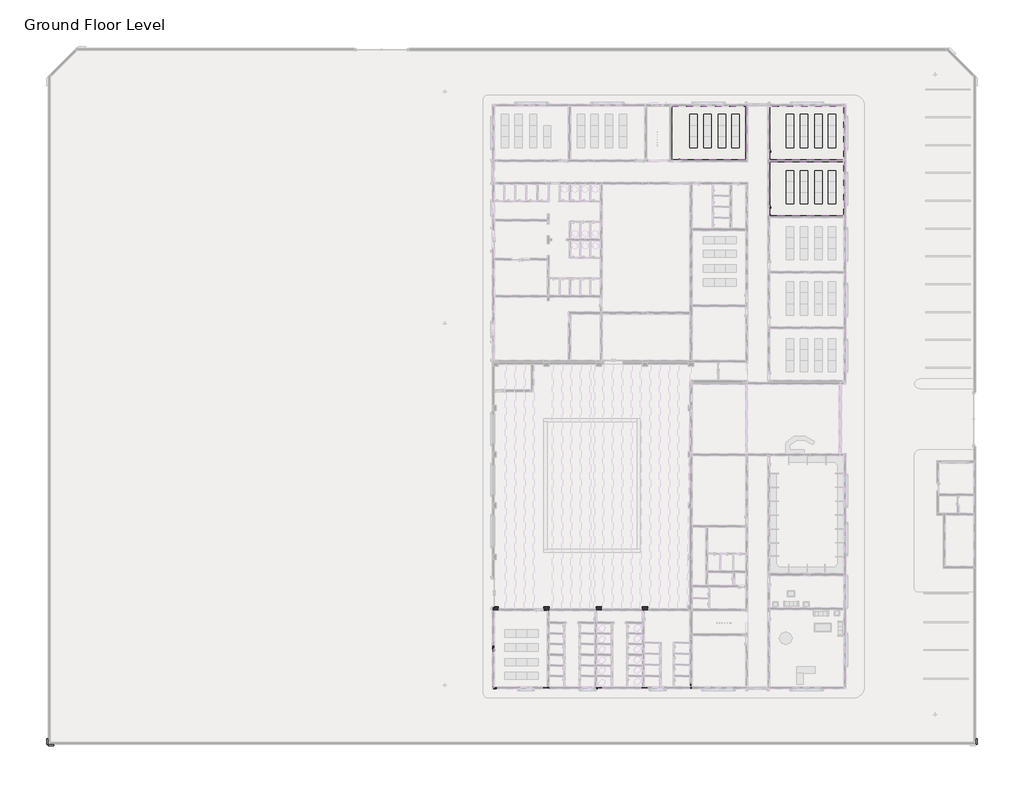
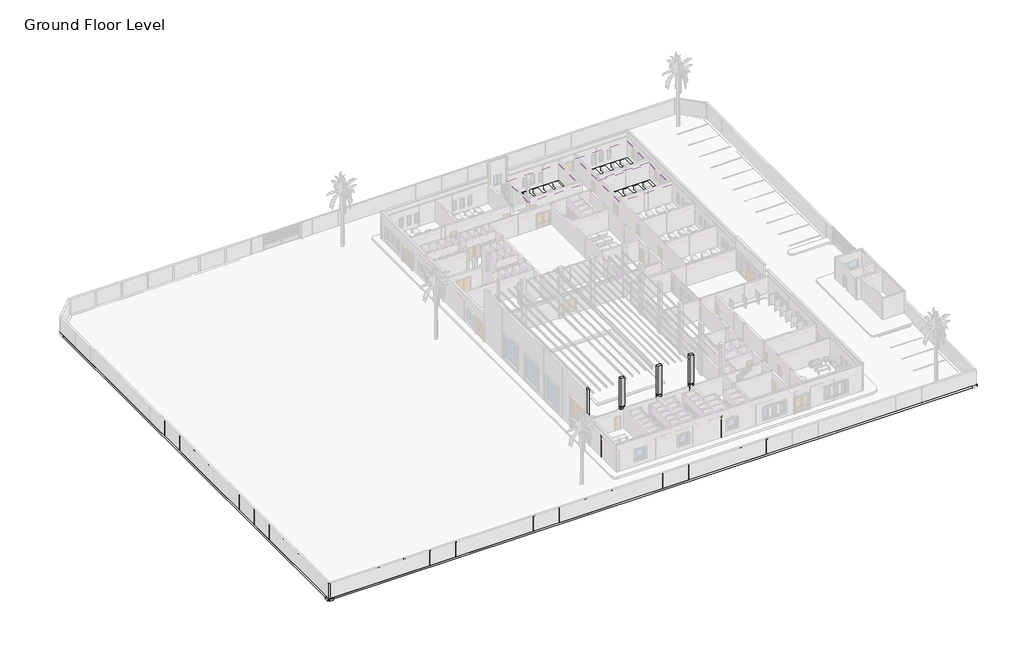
# One storey, part 13 of 23: 39 columns, 13 beams, 13 slabs, 3 coverings, 2 footings.
"""IFC4 building model written with IfcOpenShell, lengths in millimetres."""

from ifc_helpers import new_model, si_unit, frame, origin, place, context, project, spatial, polyline, outline, extrude, faceted_brep, transform, mapped, element, save
from components import concrete_rectangular_c_9a02abf1

model = new_model("IFC4")

# Units and contexts
model_context = context("Model", 3, world=origin())
ifc_project = project(units=[si_unit("LENGTHUNIT", "METRE", prefix="MILLI")], contexts=[model_context])

# Site, building, storey
site = spatial("IfcSite", under=ifc_project)
building = spatial("IfcBuilding", under=site)
storey = spatial("IfcBuildingStorey", under=building, Name="Ground Floor Level", Elevation=900.0)

# Beams
placement = place(None, origin())
element("IfcBeam", 1, ObjectType="Concrete - Rectangular Beam : GB1", at=placement, inside=storey, context=model_context, shape_type="Brep", body=[
    faceted_brep([(-16147.2327605, -41154.7846466, 500.0), (-15947.2327605, -41154.7846466, 500.0), (-15947.2327605, -41154.7846466, 600.0), (-15997.2327605, -41154.7846466, 600.0), (-16147.2327605, -41154.7846466, 600.0), (-15947.2327605, -32954.7846466, 500.0), (-15947.2327605, -32954.7846466, 600.0), (-16147.2327605, -32954.7846466, 500.0), (-16147.2327605, -32954.7846466, 600.0)], [[[0, 1, 2, 3, 4]], [[1, 5, 6, 2]], [[1, 0, 7, 5]], [[7, 0, 4, 8]], [[5, 7, 8, 6]], [[4, 3, 2, 6, 8]]]),
])
element("IfcBeam", 2, ObjectType="Concrete - Rectangular Beam : GB1", at=placement, inside=storey, context=model_context, shape_type="SweptSolid", body=[
    extrude(outline(polyline([(-10813.9007605, -41154.7846466), (-11013.9007605, -41154.7846466), (-11013.9007605, -32954.7846466), (-10813.9007605, -32954.7846466), (-10813.9007605, -41154.7846466)])), frame((0.0, 0.0, 500.0), z_axis=(0.0, 0.0, 1.0), x_axis=(1.0, 0.0, 0.0)), (0.0, 0.0, 1.0), 100.0),
])
element("IfcBeam", 3, ObjectType="Concrete - Rectangular Beam : GB1", at=placement, inside=storey, context=model_context, shape_type="SweptSolid", body=[
    extrude(outline(polyline([(-5680.5687605, -41154.7846466), (-5880.5687605, -41154.7846466), (-5880.5687605, -32954.7846466), (-5680.5687605, -32954.7846466), (-5680.5687605, -41154.7846466)])), frame((0.0, 0.0, 500.0), z_axis=(0.0, 0.0, 1.0), x_axis=(1.0, 0.0, 0.0)), (0.0, 0.0, 1.0), 100.0),
])
element("IfcBeam", 4, ObjectType="Concrete - Rectangular Beam : GB4", at=placement, inside=storey, context=model_context, shape_type="SweptSolid", body=[
    extrude(outline(polyline([(-22047.2327605, -36804.7846466), (-22047.2327605, -32954.7846466), (-21847.2327605, -32954.7846466), (-21847.2327605, -36804.7846466), (-22047.2327605, -36804.7846466)])), frame((0.0, 0.0, 300.0), z_axis=(0.0, 0.0, 1.0), x_axis=(1.0, 0.0, 0.0)), (0.0, 0.0, 1.0), 300.0),
])
element("IfcBeam", 5, ObjectType="Concrete - Rectangular Beam : GB4", at=placement, inside=storey, context=model_context, shape_type="SweptSolid", body=[
    extrude(outline(polyline([(-22047.2327605, -37304.7846466), (-21847.2327605, -37304.7846466), (-21847.2327605, -41154.7846466), (-22047.2327605, -41154.7846466), (-22047.2327605, -37304.7846466)])), frame((0.0, 0.0, 300.0), z_axis=(0.0, 0.0, 1.0), x_axis=(1.0, 0.0, 0.0)), (0.0, 0.0, 1.0), 300.0),
])
element("IfcBeam", 6, ObjectType="Concrete - Rectangular Beam : GB5", at=placement, inside=storey, context=model_context, shape_type="Brep", body=[
    faceted_brep([(-15997.2327605, -41354.7846466, 300.0), (-15947.2327605, -41354.7846466, 300.0), (-15947.2327605, -41354.7846466, 600.0), (-15997.2327605, -41354.7846466, 600.0), (-15947.2327605, -41154.7846466, 300.0), (-15997.2327605, -41154.7846466, 300.0), (-15997.2327605, -41154.7846466, 600.0), (-15947.2327605, -41154.7846466, 600.0), (-15947.2327605, -41154.7846466, 500.0)], [[[0, 1, 2, 3]], [[4, 1, 0, 5]], [[4, 5, 6, 7, 8]], [[1, 4, 8, 7, 2]], [[5, 0, 3, 6]], [[3, 2, 7, 6]]]),
    faceted_brep([(-16497.2327605, -41354.7846466, 300.0), (-16497.2327605, -41154.7846466, 300.0), (-16497.2327605, -41154.7846466, 600.0), (-16497.2327605, -41354.7846466, 600.0), (-21647.2327605, -41154.7846466, 300.0), (-21647.2327605, -41354.7846466, 300.0), (-21647.2327605, -41354.7846466, 600.0), (-21647.2327605, -41154.7846466, 600.0)], [[[0, 1, 2, 3]], [[4, 5, 6, 7]], [[5, 0, 3, 6]], [[1, 0, 5, 4]], [[1, 4, 7, 2]], [[3, 2, 7, 6]]]),
])
element("IfcBeam", 7, ObjectType="Concrete - Rectangular Beam : GB5", at=placement, inside=storey, context=model_context, shape_type="Brep", body=[
    faceted_brep([(-15947.2327605, -41354.7846466, 300.0), (-10797.2327605, -41354.7846466, 300.0), (-10797.2327605, -41354.7846466, 600.0), (-15947.2327605, -41354.7846466, 600.0), (-10797.2327605, -41154.7846466, 300.0), (-15947.2327605, -41154.7846466, 300.0), (-15947.2327605, -41154.7846466, 600.0), (-11013.9007605, -41154.7846466, 600.0), (-10813.9007605, -41154.7846466, 600.0), (-10797.2327605, -41154.7846466, 600.0)], [[[0, 1, 2, 3]], [[4, 1, 0, 5]], [[4, 5, 6, 7, 8, 9]], [[1, 4, 9, 2]], [[5, 0, 3, 6]], [[3, 2, 9, 8, 7, 6]]]),
])
element("IfcBeam", 8, ObjectType="Concrete - Rectangular Beam : GB5", at=placement, inside=storey, context=model_context, shape_type="SweptSolid", body=[
    extrude(outline(polyline([(-10297.2327605, -41354.7846466), (-10297.2327605, -41154.7846466), (-5897.2327605, -41154.7846466), (-5897.2327605, -41354.7846466), (-10297.2327605, -41354.7846466)])), frame((0.0, 0.0, 300.0), z_axis=(0.0, 0.0, 1.0), x_axis=(1.0, 0.0, 0.0)), (0.0, 0.0, 1.0), 300.0),
])
element("IfcBeam", 9, ObjectType="Concrete - Rectangular Beam : GB5", at=placement, inside=storey, context=model_context, shape_type="SweptSolid", body=[
    extrude(outline(polyline([(-5397.2327605, -41354.7846466), (-5397.2327605, -41154.7846466), (-747.2327605, -41154.7846466), (-747.2327605, -41354.7846466), (-5397.2327605, -41354.7846466)])), frame((0.0, 0.0, 300.0), z_axis=(0.0, 0.0, 1.0), x_axis=(1.0, 0.0, 0.0)), (0.0, 0.0, 1.0), 300.0),
])
element("IfcBeam", 10, ObjectType="Concrete - Rectangular Beam : GB5", at=placement, inside=storey, context=model_context, shape_type="SweptSolid", body=[
    extrude(outline(polyline([(-747.2327605, -36054.7846466), (-547.2327605, -36054.7846466), (-547.2327605, -40854.7846466), (-747.2327605, -40854.7846466), (-747.2327605, -36054.7846466)])), frame((0.0, 0.0, 300.0), z_axis=(0.0, 0.0, 1.0), x_axis=(1.0, 0.0, 0.0)), (0.0, 0.0, 1.0), 600.0),
])
element("IfcBeam", 11, ObjectType="Concrete - Rectangular Beam : GB5", at=placement, inside=storey, context=model_context, shape_type="SweptSolid", body=[
    extrude(outline(polyline([(-16547.2327605, -32754.7846466), (-16547.2327605, -32954.7846466), (-21447.2327605, -32954.7846466), (-21447.2327605, -32754.7846466), (-16547.2327605, -32754.7846466)])), frame((0.0, 0.0, 300.0), z_axis=(0.0, 0.0, 1.0), x_axis=(1.0, 0.0, 0.0)), (0.0, 0.0, 1.0), 600.0),
])
element("IfcBeam", 12, ObjectType="Concrete - Rectangular Beam : GB5", at=placement, inside=storey, context=model_context, shape_type="SweptSolid", body=[
    extrude(outline(polyline([(-10847.2327605, -32754.7846466), (-10847.2327605, -32954.7846466), (-15947.2327605, -32954.7846466), (-15947.2327605, -32754.7846466), (-10847.2327605, -32754.7846466)])), frame((0.0, 0.0, 300.0), z_axis=(0.0, 0.0, 1.0), x_axis=(1.0, 0.0, 0.0)), (0.0, 0.0, 1.0), 600.0),
])
element("IfcBeam", 13, ObjectType="Concrete - Rectangular Beam : GB5", at=placement, inside=storey, context=model_context, shape_type="SweptSolid", body=[
    extrude(outline(polyline([(-5897.2327605, -32754.7846466), (-5897.2327605, -32954.7846466), (-10247.2327605, -32954.7846466), (-10247.2327605, -32754.7846466), (-5897.2327605, -32754.7846466)])), frame((0.0, 0.0, 300.0), z_axis=(0.0, 0.0, 1.0), x_axis=(1.0, 0.0, 0.0)), (0.0, 0.0, 1.0), 300.0),
])

# Columns
concrete_rectangular_c_shape = concrete_rectangular_c_9a02abf1(model_context)
element("IfcColumn", 14, ObjectType="Concrete Rectangular : C", at=placement, inside=storey, context=model_context, shape_type="MappedRepresentation", body=[
    mapped(concrete_rectangular_c_shape, transform((-2283.9467112, -47254.7846466, 0.0), x_axis=(-1.0, 0.0, 0.0), y_axis=(0.0, -1.0, 0.0), z_axis=(0.0, 0.0, 1.0))),
])
element("IfcColumn", 15, ObjectType="Concrete Rectangular : C", at=placement, inside=storey, context=model_context, shape_type="MappedRepresentation", body=[
    mapped(concrete_rectangular_c_shape, transform((-6283.9467112, -47254.7846466, 0.0), x_axis=(-1.0, 0.0, 0.0), y_axis=(0.0, -1.0, 0.0), z_axis=(0.0, 0.0, 1.0))),
])
element("IfcColumn", 16, ObjectType="Concrete Rectangular : C", at=placement, inside=storey, context=model_context, shape_type="MappedRepresentation", body=[
    mapped(concrete_rectangular_c_shape, transform((-10283.9467112, -47254.7846466, 0.0), x_axis=(-1.0, 0.0, 0.0), y_axis=(0.0, -1.0, 0.0), z_axis=(0.0, 0.0, 1.0))),
])
element("IfcColumn", 17, ObjectType="Concrete Rectangular : C", at=placement, inside=storey, context=model_context, shape_type="MappedRepresentation", body=[
    mapped(concrete_rectangular_c_shape, transform((-14283.9467112, -47254.7846466, 0.0), x_axis=(-1.0, 0.0, 0.0), y_axis=(0.0, -1.0, 0.0), z_axis=(0.0, 0.0, 1.0))),
])
element("IfcColumn", 18, ObjectType="Concrete Rectangular : C", at=placement, inside=storey, context=model_context, shape_type="MappedRepresentation", body=[
    mapped(concrete_rectangular_c_shape, transform((-18283.9467112, -47254.7846466, 0.0), x_axis=(-1.0, 0.0, 0.0), y_axis=(0.0, -1.0, 0.0), z_axis=(0.0, 0.0, 1.0))),
])
element("IfcColumn", 19, ObjectType="Concrete Rectangular : C", at=placement, inside=storey, context=model_context, shape_type="MappedRepresentation", body=[
    mapped(concrete_rectangular_c_shape, transform((-22283.9467112, -47254.7846466, 0.0), x_axis=(-1.0, 0.0, 0.0), y_axis=(0.0, -1.0, 0.0), z_axis=(0.0, 0.0, 1.0))),
])
element("IfcColumn", 20, ObjectType="Concrete Rectangular : C", at=placement, inside=storey, context=model_context, shape_type="MappedRepresentation", body=[
    mapped(concrete_rectangular_c_shape, transform((-26283.9467112, -47254.7846466, 0.0), x_axis=(-1.0, 0.0, 0.0), y_axis=(0.0, -1.0, 0.0), z_axis=(0.0, 0.0, 1.0))),
])
element("IfcColumn", 21, ObjectType="Concrete Rectangular : C", at=placement, inside=storey, context=model_context, shape_type="MappedRepresentation", body=[
    mapped(concrete_rectangular_c_shape, transform((-30283.9467112, -47254.7846466, 0.0), x_axis=(-1.0, 0.0, 0.0), y_axis=(0.0, -1.0, 0.0), z_axis=(0.0, 0.0, 1.0))),
])
element("IfcColumn", 22, ObjectType="Concrete Rectangular : C", at=placement, inside=storey, context=model_context, shape_type="MappedRepresentation", body=[
    mapped(concrete_rectangular_c_shape, transform((-34283.9467112, -47254.7846466, 0.0), x_axis=(-1.0, 0.0, 0.0), y_axis=(0.0, -1.0, 0.0), z_axis=(0.0, 0.0, 1.0))),
])
element("IfcColumn", 23, ObjectType="Concrete Rectangular : C", at=placement, inside=storey, context=model_context, shape_type="MappedRepresentation", body=[
    mapped(concrete_rectangular_c_shape, transform((-38283.9467112, -47254.7846466, 0.0), x_axis=(-1.0, 0.0, 0.0), y_axis=(0.0, -1.0, 0.0), z_axis=(0.0, 0.0, 1.0))),
])
element("IfcColumn", 24, ObjectType="Concrete Rectangular : C", at=placement, inside=storey, context=model_context, shape_type="MappedRepresentation", body=[
    mapped(concrete_rectangular_c_shape, transform((-42283.9467112, -47254.7846466, 0.0), x_axis=(-1.0, 0.0, 0.0), y_axis=(0.0, -1.0, 0.0), z_axis=(0.0, 0.0, 1.0))),
])
element("IfcColumn", 25, ObjectType="Concrete Rectangular : C", at=placement, inside=storey, context=model_context, shape_type="MappedRepresentation", body=[
    mapped(concrete_rectangular_c_shape, transform((-46283.9467112, -47254.7846466, 0.0), x_axis=(-1.0, 0.0, 0.0), y_axis=(0.0, -1.0, 0.0), z_axis=(0.0, 0.0, 1.0))),
])
element("IfcColumn", 26, ObjectType="Concrete Rectangular : C", at=placement, inside=storey, context=model_context, shape_type="MappedRepresentation", body=[
    mapped(concrete_rectangular_c_shape, transform((-50283.9467112, -47254.7846466, 0.0), x_axis=(-1.0, 0.0, 0.0), y_axis=(0.0, -1.0, 0.0), z_axis=(0.0, 0.0, 1.0))),
])
element("IfcColumn", 27, ObjectType="Concrete Rectangular : C", at=placement, inside=storey, context=model_context, shape_type="MappedRepresentation", body=[
    mapped(concrete_rectangular_c_shape, transform((-54283.9467112, -47254.7846466, 0.0), x_axis=(-1.0, 0.0, 0.0), y_axis=(0.0, -1.0, 0.0), z_axis=(0.0, 0.0, 1.0))),
])
element("IfcColumn", 28, ObjectType="Concrete Rectangular : C", at=placement, inside=storey, context=model_context, shape_type="MappedRepresentation", body=[
    mapped(concrete_rectangular_c_shape, transform((-58283.9467112, -47254.7846466, 0.0), x_axis=(-1.0, 0.0, 0.0), y_axis=(0.0, -1.0, 0.0), z_axis=(0.0, 0.0, 1.0))),
])
element("IfcColumn", 29, ObjectType="Concrete Rectangular : C", at=placement, inside=storey, context=model_context, shape_type="MappedRepresentation", body=[
    mapped(concrete_rectangular_c_shape, transform((-62283.9467112, -47254.7846466, 0.0), x_axis=(-1.0, 0.0, 0.0), y_axis=(0.0, -1.0, 0.0), z_axis=(0.0, 0.0, 1.0))),
])
element("IfcColumn", 30, ObjectType="Concrete Rectangular : C", at=placement, inside=storey, context=model_context, shape_type="MappedRepresentation", body=[
    mapped(concrete_rectangular_c_shape, transform((-66283.9467112, -47254.7846466, 0.0), x_axis=(-1.0, 0.0, 0.0), y_axis=(0.0, -1.0, 0.0), z_axis=(0.0, 0.0, 1.0))),
])
element("IfcColumn", 31, ObjectType="Concrete Rectangular : C", at=placement, inside=storey, context=model_context, shape_type="MappedRepresentation", body=[
    mapped(concrete_rectangular_c_shape, transform((-69847.2327605, -47262.7139719, 0.0), x_axis=(-1.0, 0.0, 0.0), y_axis=(0.0, -1.0, 0.0), z_axis=(0.0, 0.0, 1.0))),
])
element("IfcColumn", 32, ObjectType="Concrete Rectangular : C", at=placement, inside=storey, context=model_context, shape_type="MappedRepresentation", body=[
    mapped(concrete_rectangular_c_shape, transform((-69847.2327605, -43271.6028608, 0.0), x_axis=(-1.0, 0.0, 0.0), y_axis=(0.0, -1.0, 0.0), z_axis=(0.0, 0.0, 1.0))),
])
element("IfcColumn", 33, ObjectType="Concrete Rectangular : C", at=placement, inside=storey, context=model_context, shape_type="MappedRepresentation", body=[
    mapped(concrete_rectangular_c_shape, transform((-69847.2327605, -39280.4917497, 0.0), x_axis=(-1.0, 0.0, 0.0), y_axis=(0.0, -1.0, 0.0), z_axis=(0.0, 0.0, 1.0))),
])
element("IfcColumn", 34, ObjectType="Concrete Rectangular : C", at=placement, inside=storey, context=model_context, shape_type="MappedRepresentation", body=[
    mapped(concrete_rectangular_c_shape, transform((-69847.2327605, -35289.3806386, 0.0), x_axis=(-1.0, 0.0, 0.0), y_axis=(0.0, -1.0, 0.0), z_axis=(0.0, 0.0, 1.0))),
])
element("IfcColumn", 35, ObjectType="Concrete Rectangular : C", at=placement, inside=storey, context=model_context, shape_type="MappedRepresentation", body=[
    mapped(concrete_rectangular_c_shape, transform((-69847.2327605, -31298.2695275, 0.0), x_axis=(-1.0, 0.0, 0.0), y_axis=(0.0, -1.0, 0.0), z_axis=(0.0, 0.0, 1.0))),
])
element("IfcColumn", 36, ObjectType="Concrete Rectangular : C", at=placement, inside=storey, context=model_context, shape_type="MappedRepresentation", body=[
    mapped(concrete_rectangular_c_shape, transform((-69847.2327605, -27307.1584163, 0.0), x_axis=(-1.0, 0.0, 0.0), y_axis=(0.0, -1.0, 0.0), z_axis=(0.0, 0.0, 1.0))),
])
element("IfcColumn", 37, ObjectType="Concrete Rectangular : C", at=placement, inside=storey, context=model_context, shape_type="MappedRepresentation", body=[
    mapped(concrete_rectangular_c_shape, transform((-69847.2327605, -23316.0473052, 0.0), x_axis=(-1.0, 0.0, 0.0), y_axis=(0.0, -1.0, 0.0), z_axis=(0.0, 0.0, 1.0))),
])
element("IfcColumn", 38, ObjectType="Concrete Rectangular : C", at=placement, inside=storey, context=model_context, shape_type="MappedRepresentation", body=[
    mapped(concrete_rectangular_c_shape, transform((-69847.2327605, -19324.9361941, 0.0), x_axis=(-1.0, 0.0, 0.0), y_axis=(0.0, -1.0, 0.0), z_axis=(0.0, 0.0, 1.0))),
])
element("IfcColumn", 39, ObjectType="Concrete Rectangular : C", at=placement, inside=storey, context=model_context, shape_type="MappedRepresentation", body=[
    mapped(concrete_rectangular_c_shape, transform((-69847.2327605, -15333.825083, 0.0), x_axis=(-1.0, 0.0, 0.0), y_axis=(0.0, -1.0, 0.0), z_axis=(0.0, 0.0, 1.0))),
])
element("IfcColumn", 40, ObjectType="Concrete Rectangular : C", at=placement, inside=storey, context=model_context, shape_type="MappedRepresentation", body=[
    mapped(concrete_rectangular_c_shape, transform((-69847.2327605, -11342.7139719, 0.0), x_axis=(-1.0, 0.0, 0.0), y_axis=(0.0, -1.0, 0.0), z_axis=(0.0, 0.0, 1.0))),
])
element("IfcColumn", 41, ObjectType="Concrete Rectangular : C", at=placement, inside=storey, context=model_context, shape_type="MappedRepresentation", body=[
    mapped(concrete_rectangular_c_shape, transform((-69847.2327605, -7351.6028608, 0.0), x_axis=(-1.0, 0.0, 0.0), y_axis=(0.0, -1.0, 0.0), z_axis=(0.0, 0.0, 1.0))),
])
element("IfcColumn", 42, ObjectType="Concrete Rectangular : C", at=placement, inside=storey, context=model_context, shape_type="MappedRepresentation", body=[
    mapped(concrete_rectangular_c_shape, transform((-69847.2327605, -3360.4917497, 0.0), x_axis=(-1.0, 0.0, 0.0), y_axis=(0.0, -1.0, 0.0), z_axis=(0.0, 0.0, 1.0))),
])
element("IfcColumn", 43, ObjectType="Concrete Rectangular : C1", at=placement, inside=storey, context=model_context, shape_type="Brep", body=[
    faceted_brep([(-22047.2327605, -41154.7846466, -300.0), (-21647.2327605, -41154.7846466, -300.0), (-21647.2327605, -41354.7846466, -300.0), (-22047.2327605, -41354.7846466, -300.0), (-21647.2327605, -41154.7846466, 600.0), (-21847.2327605, -41154.7846466, 600.0), (-22047.2327605, -41154.7846466, 600.0), (-22047.2327605, -41354.7846466, 600.0), (-21647.2327605, -41354.7846466, 600.0), (-22047.2327605, -41154.7846466, 300.0), (-21647.2327605, -41154.7846466, 300.0), (-21647.2327605, -41354.7846466, 300.0)], [[[0, 1, 2, 3]], [[4, 5, 6, 7, 8]], [[1, 0, 9, 6, 5, 4, 10]], [[3, 2, 11, 8, 7]], [[0, 3, 7, 6, 9]], [[2, 1, 10, 4, 8, 11]]]),
    faceted_brep([(-22047.2327605, -41154.7846466, 4400.0), (-21647.2327605, -41154.7846466, 4400.0), (-21647.2327605, -41154.7846466, 1000.0), (-21647.2327605, -41154.7846466, 900.0), (-21847.2327605, -41154.7846466, 900.0), (-22047.2327605, -41154.7846466, 900.0), (-21647.2327605, -41354.7846466, 4400.0), (-21647.2327605, -41354.7846466, 900.0), (-22047.2327605, -41354.7846466, 4400.0), (-22047.2327605, -41354.7846466, 900.0)], [[[0, 1, 2, 3, 4, 5]], [[1, 6, 7, 3, 2]], [[6, 8, 9, 7]], [[8, 0, 5, 9]], [[1, 0, 8, 6]], [[5, 4, 3, 7, 9]]]),
])
element("IfcColumn", 44, ObjectType="Concrete Rectangular : C2", at=placement, inside=storey, context=model_context, shape_type="Brep", body=[
    faceted_brep([(-21847.2327605, -36804.7846466, -300.0), (-21847.2327605, -37304.7846466, -300.0), (-22047.2327605, -37304.7846466, -300.0), (-22047.2327605, -36804.7846466, -300.0), (-21847.2327605, -37304.7846466, 600.0), (-21847.2327605, -36804.7846466, 600.0), (-22047.2327605, -36804.7846466, 600.0), (-22047.2327605, -37304.7846466, 600.0), (-21847.2327605, -36804.7846466, 300.0), (-21847.2327605, -37304.7846466, 300.0), (-22047.2327605, -37304.7846466, 300.0), (-22047.2327605, -36804.7846466, 300.0)], [[[0, 1, 2, 3]], [[4, 5, 6, 7]], [[1, 0, 8, 5, 4, 9]], [[2, 1, 9, 4, 7, 10]], [[3, 2, 10, 7, 6, 11]], [[0, 3, 11, 6, 5, 8]]]),
    faceted_brep([(-21847.2327605, -36804.7846466, 4400.0), (-21847.2327605, -37304.7846466, 4400.0), (-21847.2327605, -37304.7846466, 1000.0), (-21847.2327605, -37304.7846466, 900.0), (-21847.2327605, -36804.7846466, 900.0), (-21847.2327605, -36804.7846466, 1000.0), (-22047.2327605, -37304.7846466, 4400.0), (-22047.2327605, -37304.7846466, 900.0), (-22047.2327605, -36804.7846466, 4400.0), (-22047.2327605, -36804.7846466, 900.0)], [[[0, 1, 2, 3, 4, 5]], [[1, 6, 7, 3, 2]], [[6, 8, 9, 7]], [[8, 0, 5, 4, 9]], [[1, 0, 8, 6]], [[4, 3, 7, 9]]]),
])
element("IfcColumn", 45, ObjectType="Concrete Rectangular : C2", at=placement, inside=storey, context=model_context, shape_type="Brep", body=[
    faceted_brep([(-16497.2327605, -41154.7846466, -300.0), (-15997.2327605, -41154.7846466, -300.0), (-15997.2327605, -41354.7846466, -300.0), (-16497.2327605, -41354.7846466, -300.0), (-15997.2327605, -41154.7846466, 600.0), (-16147.2327605, -41154.7846466, 600.0), (-16497.2327605, -41154.7846466, 600.0), (-16497.2327605, -41354.7846466, 600.0), (-15997.2327605, -41354.7846466, 600.0), (-16497.2327605, -41154.7846466, 300.0), (-15997.2327605, -41154.7846466, 300.0), (-15997.2327605, -41354.7846466, 300.0), (-16497.2327605, -41354.7846466, 300.0)], [[[0, 1, 2, 3]], [[4, 5, 6, 7, 8]], [[1, 0, 9, 6, 5, 4, 10]], [[2, 1, 10, 4, 8, 11]], [[3, 2, 11, 8, 7, 12]], [[0, 3, 12, 7, 6, 9]]]),
    faceted_brep([(-16497.2327605, -41154.7846466, 4400.0), (-15997.2327605, -41154.7846466, 4400.0), (-15997.2327605, -41154.7846466, 900.0), (-16147.2327605, -41154.7846466, 900.0), (-16497.2327605, -41154.7846466, 900.0), (-16497.2327605, -41154.7846466, 1000.0), (-15997.2327605, -41354.7846466, 4400.0), (-15997.2327605, -41354.7846466, 900.0), (-16497.2327605, -41354.7846466, 4400.0), (-16497.2327605, -41354.7846466, 900.0)], [[[0, 1, 2, 3, 4, 5]], [[1, 6, 7, 2]], [[6, 8, 9, 7]], [[8, 0, 5, 4, 9]], [[1, 0, 8, 6]], [[4, 3, 2, 7, 9]]]),
])
element("IfcColumn", 46, ObjectType="Concrete Rectangular : C2", at=placement, inside=storey, context=model_context, shape_type="Brep", body=[
    faceted_brep([(-10797.2327605, -41154.7846466, -300.0), (-10297.2327605, -41154.7846466, -300.0), (-10297.2327605, -41354.7846466, -300.0), (-10797.2327605, -41354.7846466, -300.0), (-10297.2327605, -41154.7846466, 600.0), (-10797.2327605, -41154.7846466, 600.0), (-10797.2327605, -41354.7846466, 600.0), (-10297.2327605, -41354.7846466, 600.0), (-10797.2327605, -41154.7846466, 300.0), (-10297.2327605, -41154.7846466, 300.0), (-10297.2327605, -41354.7846466, 300.0), (-10797.2327605, -41354.7846466, 300.0)], [[[0, 1, 2, 3]], [[4, 5, 6, 7]], [[1, 0, 8, 5, 4, 9]], [[2, 1, 9, 4, 7, 10]], [[3, 2, 10, 7, 6, 11]], [[0, 3, 11, 6, 5, 8]]]),
    faceted_brep([(-10797.2327605, -41154.7846466, 4400.0), (-10297.2327605, -41154.7846466, 4400.0), (-10297.2327605, -41154.7846466, 1000.0), (-10297.2327605, -41154.7846466, 900.0), (-10797.2327605, -41154.7846466, 900.0), (-10797.2327605, -41154.7846466, 1000.0), (-10297.2327605, -41354.7846466, 4400.0), (-10297.2327605, -41354.7846466, 900.0), (-10797.2327605, -41354.7846466, 4400.0), (-10797.2327605, -41354.7846466, 900.0)], [[[0, 1, 2, 3, 4, 5]], [[1, 6, 7, 3, 2]], [[6, 8, 9, 7]], [[8, 0, 5, 4, 9]], [[1, 0, 8, 6]], [[4, 3, 7, 9]]]),
])
element("IfcColumn", 47, ObjectType="Concrete Rectangular : C2", at=placement, inside=storey, context=model_context, shape_type="Brep", body=[
    faceted_brep([(-5897.2327605, -41154.7846466, -300.0), (-5397.2327605, -41154.7846466, -300.0), (-5397.2327605, -41354.7846466, -300.0), (-5897.2327605, -41354.7846466, -300.0), (-5397.2327605, -41154.7846466, 600.0), (-5680.5687605, -41154.7846466, 600.0), (-5880.5687605, -41154.7846466, 600.0), (-5897.2327605, -41154.7846466, 600.0), (-5897.2327605, -41354.7846466, 600.0), (-5397.2327605, -41354.7846466, 600.0), (-5897.2327605, -41154.7846466, 300.0), (-5397.2327605, -41154.7846466, 300.0), (-5397.2327605, -41354.7846466, 300.0), (-5897.2327605, -41354.7846466, 300.0)], [[[0, 1, 2, 3]], [[4, 5, 6, 7, 8, 9]], [[1, 0, 10, 7, 6, 5, 4, 11]], [[2, 1, 11, 4, 9, 12]], [[3, 2, 12, 9, 8, 13]], [[0, 3, 13, 8, 7, 10]]]),
    faceted_brep([(-5897.2327605, -41154.7846466, 4400.0), (-5397.2327605, -41154.7846466, 4400.0), (-5397.2327605, -41154.7846466, 1000.0), (-5397.2327605, -41154.7846466, 900.0), (-5897.2327605, -41154.7846466, 900.0), (-5897.2327605, -41154.7846466, 1000.0), (-5397.2327605, -41354.7846466, 4400.0), (-5397.2327605, -41354.7846466, 900.0), (-5897.2327605, -41354.7846466, 4400.0), (-5897.2327605, -41354.7846466, 900.0)], [[[0, 1, 2, 3, 4, 5]], [[1, 6, 7, 3, 2]], [[6, 8, 9, 7]], [[8, 0, 5, 4, 9]], [[1, 0, 8, 6]], [[4, 3, 7, 9]]]),
])
element("IfcColumn", 48, ObjectType="Concrete Rectangular : C2", at=placement, inside=storey, context=model_context, shape_type="Brep", body=[
    faceted_brep([(-547.2327605, -40854.7846466, -300.0), (-547.2327605, -41354.7846466, -300.0), (-747.2327605, -41354.7846466, -300.0), (-747.2327605, -40854.7846466, -300.0), (-547.2327605, -40854.7846466, 4400.0), (-547.2327605, -41144.7846466, 4400.0), (-547.2327605, -41354.7846466, 4400.0), (-547.2327605, -41354.7846466, 900.0), (-547.2327605, -40854.7846466, 900.0), (-547.2327605, -40854.7846466, 1000.0), (-747.2327605, -41354.7846466, 4400.0), (-747.2327605, -41354.7846466, 900.0), (-747.2327605, -41144.7846466, 4400.0), (-747.2327605, -40854.7846466, 4400.0), (-747.2327605, -40854.7846466, 1000.0), (-747.2327605, -40854.7846466, 900.0)], [[[0, 1, 2, 3]], [[4, 5, 6, 7, 1, 0, 8, 9]], [[6, 10, 11, 2, 1, 7]], [[10, 12, 13, 14, 15, 3, 2, 11]], [[13, 4, 9, 8, 0, 3, 15, 14]], [[4, 13, 12, 10, 6, 5]]]),
])
element("IfcColumn", 49, ObjectType="Concrete Rectangular : C4", at=placement, inside=storey, context=model_context, shape_type="Brep", body=[
    faceted_brep([(-5897.2327605, -32554.7846466, -300.0), (-5297.2327605, -32554.7846466, -300.0), (-5297.2327605, -32954.7846466, -300.0), (-5897.2327605, -32954.7846466, -300.0), (-5897.2327605, -32554.7846466, 9200.0), (-5297.2327605, -32554.7846466, 9200.0), (-5297.2327605, -32744.7846466, 9200.0), (-5297.2327605, -32954.7846466, 9200.0), (-5297.2327605, -32954.7846466, 4550.0), (-5297.2327605, -32754.7846466, 4550.0), (-5297.2327605, -32754.7846466, 4400.0), (-5297.2327605, -32954.7846466, 4400.0), (-5297.2327605, -32954.7846466, 4100.0), (-5297.2327605, -32954.7846466, 1000.0), (-5297.2327605, -32954.7846466, 900.0), (-5897.2327605, -32954.7846466, 9200.0), (-5897.2327605, -32954.7846466, 4550.0), (-5897.2327605, -32954.7846466, 900.0), (-5897.2327605, -32954.7846466, 1000.0), (-5897.2327605, -32954.7846466, 4100.0), (-5897.2327605, -32954.7846466, 4400.0), (-5897.2327605, -32754.7846466, 4400.0), (-5897.2327605, -32754.7846466, 4550.0), (-5897.2327605, -32744.7846466, 9200.0)], [[[0, 1, 2, 3]], [[1, 0, 4, 5]], [[2, 1, 5, 6, 7, 8, 9, 10, 11, 12, 13, 14]], [[7, 15, 16, 8]], [[0, 3, 17, 18, 19, 20, 21, 22, 16, 15, 23, 4]], [[5, 4, 23, 15, 7, 6]], [[10, 21, 20, 11]], [[22, 9, 8, 16]], [[21, 10, 9, 22]], [[3, 2, 14, 13, 12, 11, 20, 19, 18, 17]]]),
])
element("IfcColumn", 50, ObjectType="Concrete Rectangular : C4", at=placement, inside=storey, context=model_context, shape_type="Brep", body=[
    faceted_brep([(-10847.2327605, -32554.7846466, -300.0), (-10247.2327605, -32554.7846466, -300.0), (-10247.2327605, -32954.7846466, -300.0), (-10847.2327605, -32954.7846466, -300.0), (-10847.2327605, -32554.7846466, 9200.0), (-10247.2327605, -32554.7846466, 9200.0), (-10247.2327605, -32744.7846466, 9200.0), (-10247.2327605, -32954.7846466, 9200.0), (-10247.2327605, -32954.7846466, 4550.0), (-10247.2327605, -32754.7846466, 4550.0), (-10247.2327605, -32754.7846466, 4400.0), (-10247.2327605, -32954.7846466, 4400.0), (-10247.2327605, -32954.7846466, 4100.0), (-10247.2327605, -32954.7846466, 1000.0), (-10247.2327605, -32954.7846466, 900.0), (-10847.2327605, -32954.7846466, 9200.0), (-10847.2327605, -32954.7846466, 4550.0), (-10847.2327605, -32954.7846466, 900.0), (-10847.2327605, -32954.7846466, 1000.0), (-10847.2327605, -32954.7846466, 4100.0), (-10847.2327605, -32954.7846466, 4400.0), (-10847.2327605, -32754.7846466, 4400.0), (-10847.2327605, -32754.7846466, 4550.0), (-10847.2327605, -32744.7846466, 9200.0)], [[[0, 1, 2, 3]], [[1, 0, 4, 5]], [[2, 1, 5, 6, 7, 8, 9, 10, 11, 12, 13, 14]], [[7, 15, 16, 8]], [[0, 3, 17, 18, 19, 20, 21, 22, 16, 15, 23, 4]], [[5, 4, 23, 15, 7, 6]], [[10, 21, 20, 11]], [[22, 9, 8, 16]], [[21, 10, 9, 22]], [[3, 2, 14, 13, 12, 11, 20, 19, 18, 17]]]),
])
element("IfcColumn", 51, ObjectType="Concrete Rectangular : C4", at=placement, inside=storey, context=model_context, shape_type="Brep", body=[
    faceted_brep([(-16547.2327605, -32554.7846466, -300.0), (-15947.2327605, -32554.7846466, -300.0), (-15947.2327605, -32954.7846466, -300.0), (-16547.2327605, -32954.7846466, -300.0), (-16547.2327605, -32554.7846466, 9200.0), (-15947.2327605, -32554.7846466, 9200.0), (-15947.2327605, -32744.7846466, 9200.0), (-15947.2327605, -32954.7846466, 9200.0), (-15947.2327605, -32954.7846466, 4550.0), (-15947.2327605, -32754.7846466, 4550.0), (-15947.2327605, -32754.7846466, 4400.0), (-15947.2327605, -32954.7846466, 4400.0), (-15947.2327605, -32954.7846466, 4100.0), (-15947.2327605, -32954.7846466, 1000.0), (-15947.2327605, -32954.7846466, 900.0), (-16547.2327605, -32954.7846466, 9200.0), (-16547.2327605, -32954.7846466, 4550.0), (-16547.2327605, -32954.7846466, 900.0), (-16547.2327605, -32954.7846466, 1000.0), (-16547.2327605, -32954.7846466, 4100.0), (-16547.2327605, -32954.7846466, 4400.0), (-16547.2327605, -32754.7846466, 4400.0), (-16547.2327605, -32754.7846466, 4550.0), (-16547.2327605, -32744.7846466, 9200.0)], [[[0, 1, 2, 3]], [[1, 0, 4, 5]], [[2, 1, 5, 6, 7, 8, 9, 10, 11, 12, 13, 14]], [[7, 15, 16, 8]], [[0, 3, 17, 18, 19, 20, 21, 22, 16, 15, 23, 4]], [[5, 4, 23, 15, 7, 6]], [[10, 21, 20, 11]], [[22, 9, 8, 16]], [[21, 10, 9, 22]], [[3, 2, 14, 13, 12, 11, 20, 19, 18, 17]]]),
])
element("IfcColumn", 52, ObjectType="Concrete Rectangular : C4", at=placement, inside=storey, context=model_context, shape_type="Brep", body=[
    faceted_brep([(-22047.2327605, -32554.7846466, -300.0), (-21447.2327605, -32554.7846466, -300.0), (-21447.2327605, -32954.7846466, -300.0), (-22047.2327605, -32954.7846466, -300.0), (-21447.2327605, -32554.7846466, 600.0), (-21847.2327605, -32554.7846466, 600.0), (-22047.2327605, -32554.7846466, 600.0), (-22047.2327605, -32954.7846466, 600.0), (-21847.2327605, -32954.7846466, 600.0), (-21447.2327605, -32954.7846466, 600.0), (-22047.2327605, -32554.7846466, 300.0), (-22047.2327605, -32954.7846466, 300.0)], [[[0, 1, 2, 3]], [[4, 5, 6, 7, 8, 9]], [[1, 0, 10, 6, 5, 4]], [[2, 1, 4, 9]], [[3, 2, 9, 8, 7, 11]], [[0, 3, 11, 7, 6, 10]]]),
    faceted_brep([(-22047.2327605, -32554.7846466, 9200.0), (-21837.2327605, -32554.7846466, 9200.0), (-21447.2327605, -32554.7846466, 9200.0), (-21447.2327605, -32554.7846466, 900.0), (-22047.2327605, -32554.7846466, 900.0), (-22047.2327605, -32554.7846466, 5919.0), (-21447.2327605, -32744.7846466, 9200.0), (-21447.2327605, -32954.7846466, 9200.0), (-21447.2327605, -32954.7846466, 4550.0), (-21447.2327605, -32754.7846466, 4550.0), (-21447.2327605, -32754.7846466, 4400.0), (-21447.2327605, -32954.7846466, 4400.0), (-21447.2327605, -32954.7846466, 4100.0), (-21447.2327605, -32954.7846466, 1000.0), (-21447.2327605, -32954.7846466, 900.0), (-21447.2327605, -32754.7846466, 900.0), (-21837.2327605, -32954.7846466, 9200.0), (-22047.2327605, -32954.7846466, 9200.0), (-22047.2327605, -32954.7846466, 4550.0), (-22047.2327605, -32573.7846466, 900.0), (-22047.2327605, -32954.7846466, 900.0), (-22047.2327605, -32954.7846466, 4100.0), (-22047.2327605, -32954.7846466, 4400.0), (-22047.2327605, -32754.7846466, 4400.0), (-22047.2327605, -32754.7846466, 4550.0), (-21837.2327605, -32954.7846466, 900.0)], [[[0, 1, 2, 3, 4, 5]], [[2, 6, 7, 8, 9, 10, 11, 12, 13, 14, 15, 3]], [[7, 16, 17, 18, 8]], [[17, 0, 5, 4, 19, 20, 21, 22, 23, 24, 18]], [[2, 1, 0, 17, 16, 7, 6]], [[4, 3, 15, 14, 25, 20, 19]], [[10, 23, 22, 11]], [[24, 9, 8, 18]], [[23, 10, 9, 24]], [[20, 25, 14, 13, 12, 11, 22, 21]]]),
])

# Coverings
element("IfcCovering", 53, ObjectType="600 x 600mm Grid", at=placement, inside=storey, context=model_context, shape_type="SweptSolid", body=[
    extrude(outline(polyline([(5242.7672395, 21435.2153534), (5242.7672395, 15655.2153534), (-2637.2327605, 15655.2153534), (-2737.2327605, 15655.2153534), (-2737.2327605, 21435.2153534), (-2637.2327605, 21435.2153534), (5242.7672395, 21435.2153534)])), frame((0.0, 0.0, 3650.0), z_axis=(0.0, 0.0, 1.0), x_axis=(1.0, 0.0, 0.0)), (0.0, 0.0, 1.0), 52.0),
])
element("IfcCovering", 54, ObjectType="600 x 600mm Grid", at=placement, inside=storey, context=model_context, shape_type="SweptSolid", body=[
    extrude(outline(polyline([(7862.7672395, 15655.2153534), (7862.7672395, 21435.2153534), (15842.7672395, 21435.2153534), (15842.7672395, 15655.2153534), (7862.7672395, 15655.2153534)])), frame((0.0, 0.0, 3650.0), z_axis=(0.0, 0.0, 1.0), x_axis=(1.0, 0.0, 0.0)), (0.0, 0.0, 1.0), 52.0),
])
element("IfcCovering", 55, ObjectType="600 x 600mm Grid", at=placement, inside=storey, context=model_context, shape_type="SweptSolid", body=[
    extrude(outline(polyline([(7862.7672395, 9655.2153534), (7862.7672395, 15435.2153534), (15842.7672395, 15435.2153534), (15842.7672395, 9655.2153534), (7862.7672395, 9655.2153534)])), frame((0.0, 0.0, 3650.0), z_axis=(0.0, 0.0, 1.0), x_axis=(1.0, 0.0, 0.0)), (0.0, 0.0, 1.0), 52.0),
])

# Footings
element("IfcFooting", 56, ObjectType="Bearing Footing - 600 x 300", at=placement, inside=storey, context=model_context, shape_type="Brep", body=[
    faceted_brep([(30242.7672395, -46764.7846466, 600.0), (30062.7672395, -46764.7846466, 600.0), (29462.7672395, -46764.7846466, 600.0), (-69357.2327605, -46764.7846466, 600.0), (-69957.2327605, -46764.7846466, 600.0), (-70137.2327605, -46764.7846466, 600.0), (-70137.2327605, -47364.7846466, 600.0), (-69957.2327605, -47364.7846466, 600.0), (-69357.2327605, -47364.7846466, 600.0), (29462.7672395, -47364.7846466, 600.0), (30062.7672395, -47364.7846466, 600.0), (30242.7672395, -47364.7846466, 600.0), (30242.7672395, -47364.7846466, 300.0), (-70137.2327605, -47364.7846466, 300.0), (-69957.2327605, -47364.7846466, 300.0), (-69357.2327605, -47364.7846466, 300.0), (29462.7672395, -47364.7846466, 300.0), (30062.7672395, -47364.7846466, 300.0), (30242.7672395, -46764.7846466, 300.0), (-70137.2327605, -46764.7846466, 300.0), (-69957.2327605, -46764.7846466, 300.0), (-69357.2327605, -46764.7846466, 300.0), (29462.7672395, -46764.7846466, 300.0), (30062.7672395, -46764.7846466, 300.0)], [[[0, 1, 2, 3, 4, 5, 6, 7, 8, 9, 10, 11]], [[12, 11, 10, 9, 8, 7, 6, 13, 14, 15, 16, 17]], [[18, 12, 17, 16, 15, 14, 13, 19, 20, 21, 22, 23]], [[0, 18, 23, 22, 21, 20, 19, 5, 4, 3, 2, 1]], [[6, 5, 19, 13]], [[0, 11, 12, 18]]]),
])
element("IfcFooting", 57, ObjectType="Bearing Footing - 600 x 300", at=placement, inside=storey, context=model_context, shape_type="Brep", body=[
    faceted_brep([(-69957.2327605, -47544.7846466, 600.0), (-69357.2327605, -47544.7846466, 600.0), (-69357.2327605, -47364.7846466, 600.0), (-69957.2327605, -47364.7846466, 600.0), (-69957.2327605, -47544.7846466, 300.0), (-69957.2327605, -47364.7846466, 300.0), (-69357.2327605, -47544.7846466, 300.0), (-69357.2327605, -47364.7846466, 300.0)], [[[0, 1, 2, 3]], [[4, 0, 3, 5]], [[6, 4, 5, 7]], [[1, 6, 7, 2]], [[1, 0, 4, 6]], [[3, 2, 7, 5]]]),
    faceted_brep([(-69357.2327605, 24400.8293516, 600.0), (-69957.2327605, 24649.357489, 600.0), (-69957.2327605, 23800.8293516, 600.0), (-69957.2327605, -46764.7846466, 600.0), (-69357.2327605, -46764.7846466, 600.0), (-69957.2327605, 24649.357489, 300.0), (-69957.2327605, 23800.8293516, 300.0), (-69957.2327605, -46764.7846466, 300.0), (-69357.2327605, 24400.8293516, 300.0), (-69357.2327605, -46764.7846466, 300.0)], [[[0, 1, 2, 3, 4]], [[1, 5, 6, 7, 3, 2]], [[5, 8, 9, 7, 6]], [[8, 0, 4, 9]], [[1, 0, 8, 5]], [[4, 3, 7, 9]]]),
])

# Slabs
element("IfcSlab", 58, ObjectType="Ceramic Tile Floor 60x60cm", at=placement, inside=storey, context=model_context, shape_type="Brep", body=[
    faceted_brep([(7852.7672395, 15445.2153534, 900.0), (7862.7672395, 15445.2153534, 900.0), (11552.7672395, 15445.2153534, 900.0), (12152.7672395, 15445.2153534, 900.0), (15842.7672395, 15445.2153534, 900.0), (15852.7672395, 15445.2153534, 900.0), (15852.7672395, 15145.2153534, 900.0), (15852.7672395, 9795.2153534, 900.0), (15852.7672395, 9655.2153534, 900.0), (15842.7672395, 9655.2153534, 900.0), (7862.7672395, 9655.2153534, 900.0), (7852.7672395, 9655.2153534, 900.0), (7852.7672395, 9745.2153534, 900.0), (7852.7672395, 15045.2153534, 900.0), (7852.7672395, 15445.2153534, 1000.0), (7852.7672395, 15045.2153534, 1000.0), (7852.7672395, 10693.2153534, 1000.0), (7852.7672395, 9755.2153534, 1000.0), (7852.7672395, 9745.2153534, 1000.0), (7852.7672395, 9655.2153534, 1000.0), (7862.7672395, 9655.2153534, 1000.0), (15842.7672395, 9655.2153534, 1000.0), (15852.7672395, 9655.2153534, 1000.0), (15852.7672395, 9795.2153534, 1000.0), (15852.7672395, 15145.2153534, 1000.0), (15852.7672395, 15445.2153534, 1000.0), (15842.7672395, 15445.2153534, 1000.0), (12152.7672395, 15445.2153534, 1000.0), (11552.7672395, 15445.2153534, 1000.0), (7862.7672395, 15445.2153534, 1000.0)], [[[0, 1, 2, 3, 4, 5, 6, 7, 8, 9, 10, 11, 12, 13]], [[14, 15, 16, 17, 18, 19, 20, 21, 22, 23, 24, 25, 26, 27, 28, 29]], [[5, 4, 3, 2, 1, 0, 14, 29, 28, 27, 26, 25]], [[8, 7, 6, 5, 25, 24, 23, 22]], [[11, 10, 9, 8, 22, 21, 20, 19]], [[0, 13, 12, 11, 19, 18, 17, 16, 15, 14]]]),
])
element("IfcSlab", 59, ObjectType="Ceramic Tile Floor 60x60cm", at=placement, inside=storey, context=model_context, shape_type="Brep", body=[
    faceted_brep([(15852.7672395, 21445.2153534, 900.0), (15852.7672395, 21435.2153534, 900.0), (15852.7672395, 15655.2153534, 900.0), (15842.7672395, 15655.2153534, 900.0), (7862.7672395, 15655.2153534, 900.0), (7852.7672395, 15655.2153534, 900.0), (7852.7672395, 21145.2153534, 900.0), (7852.7672395, 21445.2153534, 900.0), (11052.7672395, 21445.2153534, 900.0), (11552.7672395, 21445.2153534, 900.0), (15652.7672395, 21445.2153534, 900.0), (15852.7672395, 21445.2153534, 1000.0), (15652.7672395, 21445.2153534, 1000.0), (11552.7672395, 21445.2153534, 1000.0), (11052.7672395, 21445.2153534, 1000.0), (7852.7672395, 21445.2153534, 1000.0), (7852.7672395, 21435.2153534, 1000.0), (7852.7672395, 21145.2153534, 1000.0), (7852.7672395, 16693.2153534, 1000.0), (7852.7672395, 15755.2153534, 1000.0), (7852.7672395, 15655.2153534, 1000.0), (7862.7672395, 15655.2153534, 1000.0), (15842.7672395, 15655.2153534, 1000.0), (15852.7672395, 15655.2153534, 1000.0), (15852.7672395, 21435.2153534, 1000.0)], [[[0, 1, 2, 3, 4, 5, 6, 7, 8, 9, 10]], [[11, 12, 13, 14, 15, 16, 17, 18, 19, 20, 21, 22, 23, 24]], [[0, 10, 9, 8, 7, 15, 14, 13, 12, 11]], [[2, 1, 0, 11, 24, 23]], [[5, 4, 3, 2, 23, 22, 21, 20]], [[7, 6, 5, 20, 19, 18, 17, 16, 15]]]),
])
element("IfcSlab", 60, ObjectType="Ceramic Tile Floor 60x60cm", at=placement, inside=storey, context=model_context, shape_type="Brep", body=[
    faceted_brep([(5252.7672395, 21445.2153534, 900.0), (5252.7672395, 21435.2153534, 900.0), (5252.7672395, 15655.2153534, 900.0), (5252.7672395, 15645.2153534, 900.0), (-2637.2327605, 15645.2153534, 900.0), (-2737.2327605, 15645.2153534, 900.0), (-2737.2327605, 15655.2153534, 900.0), (-2737.2327605, 21435.2153534, 900.0), (-2737.2327605, 21445.2153534, 900.0), (2802.7672395, 21445.2153534, 900.0), (3302.7672395, 21445.2153534, 900.0), (5252.7672395, 21445.2153534, 1000.0), (3302.7672395, 21445.2153534, 1000.0), (2802.7672395, 21445.2153534, 1000.0), (-2737.2327605, 21445.2153534, 1000.0), (-2737.2327605, 21435.2153534, 1000.0), (-2737.2327605, 15645.2153534, 1000.0), (-2637.2327605, 15645.2153534, 1000.0), (-1699.2327605, 15645.2153534, 1000.0), (5252.7672395, 15645.2153534, 1000.0), (5252.7672395, 15655.2153534, 1000.0), (5252.7672395, 21435.2153534, 1000.0)], [[[0, 1, 2, 3, 4, 5, 6, 7, 8, 9, 10]], [[11, 12, 13, 14, 15, 16, 17, 18, 19, 20, 21]], [[3, 2, 1, 0, 11, 21, 20, 19]], [[5, 4, 3, 19, 18, 17, 16]], [[8, 7, 6, 5, 16, 15, 14]], [[0, 10, 9, 8, 14, 13, 12, 11]]]),
])
element("IfcSlab", 61, ObjectType="Footing-Rectangular : F2", at=placement, inside=storey, context=model_context, shape_type="SweptSolid", body=[
    extrude(outline(polyline([(-22647.2327605, -41954.7846466), (-22647.2327605, -40554.7846466), (-21047.2327605, -40554.7846466), (-21047.2327605, -41954.7846466), (-22647.2327605, -41954.7846466)])), frame((0.0, 0.0, -800.0), z_axis=(0.0, 0.0, 1.0), x_axis=(1.0, 0.0, 0.0)), (0.0, 0.0, 1.0), 500.0),
])
element("IfcSlab", 62, ObjectType="Footing-Rectangular : F4", at=placement, inside=storey, context=model_context, shape_type="SweptSolid", body=[
    extrude(outline(polyline([(-1497.2327605, -40104.7846466), (202.7672395, -40104.7846466), (202.7672395, -42104.7846466), (-1497.2327605, -42104.7846466), (-1497.2327605, -40104.7846466)])), frame((0.0, 0.0, -800.0), z_axis=(0.0, 0.0, 1.0), x_axis=(1.0, 0.0, 0.0)), (0.0, 0.0, 1.0), 500.0),
])
element("IfcSlab", 63, ObjectType="Footing-Rectangular : F4", at=placement, inside=storey, context=model_context, shape_type="SweptSolid", body=[
    extrude(outline(polyline([(-17247.2327605, -42104.7846466), (-17247.2327605, -40404.7846466), (-15247.2327605, -40404.7846466), (-15247.2327605, -42104.7846466), (-17247.2327605, -42104.7846466)])), frame((0.0, 0.0, -800.0), z_axis=(0.0, 0.0, 1.0), x_axis=(1.0, 0.0, 0.0)), (0.0, 0.0, 1.0), 500.0),
])
element("IfcSlab", 64, ObjectType="Footing-Rectangular : F4", at=placement, inside=storey, context=model_context, shape_type="SweptSolid", body=[
    extrude(outline(polyline([(-6647.2327605, -42104.7846466), (-6647.2327605, -40404.7846466), (-4647.2327605, -40404.7846466), (-4647.2327605, -42104.7846466), (-6647.2327605, -42104.7846466)])), frame((0.0, 0.0, -800.0), z_axis=(0.0, 0.0, 1.0), x_axis=(1.0, 0.0, 0.0)), (0.0, 0.0, 1.0), 500.0),
])
element("IfcSlab", 65, ObjectType="Footing-Rectangular : F4", at=placement, inside=storey, context=model_context, shape_type="SweptSolid", body=[
    extrude(outline(polyline([(-11547.2327605, -42104.7846466), (-11547.2327605, -40404.7846466), (-9547.2327605, -40404.7846466), (-9547.2327605, -42104.7846466), (-11547.2327605, -42104.7846466)])), frame((0.0, 0.0, -800.0), z_axis=(0.0, 0.0, 1.0), x_axis=(1.0, 0.0, 0.0)), (0.0, 0.0, 1.0), 500.0),
])
element("IfcSlab", 66, ObjectType="Footing-Rectangular : F4", at=placement, inside=storey, context=model_context, shape_type="SweptSolid", body=[
    extrude(outline(polyline([(-22797.2327605, -36054.7846466), (-21097.2327605, -36054.7846466), (-21097.2327605, -38054.7846466), (-22797.2327605, -38054.7846466), (-22797.2327605, -36054.7846466)])), frame((0.0, 0.0, -800.0), z_axis=(0.0, 0.0, 1.0), x_axis=(1.0, 0.0, 0.0)), (0.0, 0.0, 1.0), 500.0),
])
element("IfcSlab", 67, ObjectType="Footing-Rectangular : F6", at=placement, inside=storey, context=model_context, shape_type="SweptSolid", body=[
    extrude(outline(polyline([(-22997.2327605, -33804.7846466), (-22997.2327605, -31704.7846466), (-20497.2327605, -31704.7846466), (-20497.2327605, -33804.7846466), (-22997.2327605, -33804.7846466)])), frame((0.0, 0.0, -800.0), z_axis=(0.0, 0.0, 1.0), x_axis=(1.0, 0.0, 0.0)), (0.0, 0.0, 1.0), 500.0),
])
element("IfcSlab", 68, ObjectType="Footing-Rectangular : F6", at=placement, inside=storey, context=model_context, shape_type="SweptSolid", body=[
    extrude(outline(polyline([(-17497.2327605, -33804.7846466), (-17497.2327605, -31704.7846466), (-14997.2327605, -31704.7846466), (-14997.2327605, -33804.7846466), (-17497.2327605, -33804.7846466)])), frame((0.0, 0.0, -800.0), z_axis=(0.0, 0.0, 1.0), x_axis=(1.0, 0.0, 0.0)), (0.0, 0.0, 1.0), 500.0),
])
element("IfcSlab", 69, ObjectType="Footing-Rectangular : F6", at=placement, inside=storey, context=model_context, shape_type="SweptSolid", body=[
    extrude(outline(polyline([(-11797.2327605, -33804.7846466), (-11797.2327605, -31704.7846466), (-9297.2327605, -31704.7846466), (-9297.2327605, -33804.7846466), (-11797.2327605, -33804.7846466)])), frame((0.0, 0.0, -800.0), z_axis=(0.0, 0.0, 1.0), x_axis=(1.0, 0.0, 0.0)), (0.0, 0.0, 1.0), 500.0),
])
element("IfcSlab", 70, ObjectType="Footing-Rectangular : F6", at=placement, inside=storey, context=model_context, shape_type="SweptSolid", body=[
    extrude(outline(polyline([(-6847.2327605, -33804.7846466), (-6847.2327605, -31704.7846466), (-4347.2327605, -31704.7846466), (-4347.2327605, -33804.7846466), (-6847.2327605, -33804.7846466)])), frame((0.0, 0.0, -800.0), z_axis=(0.0, 0.0, 1.0), x_axis=(1.0, 0.0, 0.0)), (0.0, 0.0, 1.0), 500.0),
])

save(model, "model.ifc")
